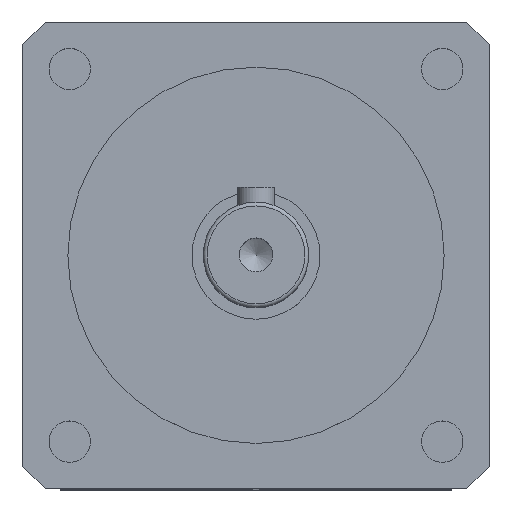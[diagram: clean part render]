
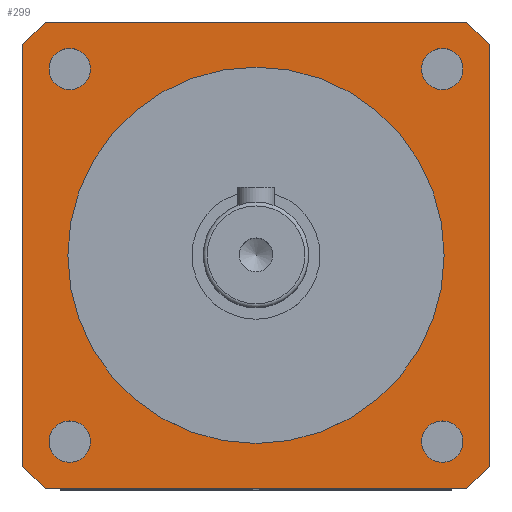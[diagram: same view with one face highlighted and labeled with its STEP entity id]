
A CAD part, top view. The second image highlights one B-rep face of the part: STEP entity #299.
In plain terms, the highlighted planar face has unit normal (0, 0, 1).
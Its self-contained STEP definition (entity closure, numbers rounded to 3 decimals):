
#176=LINE('',#1470,#240);
#179=LINE('',#1476,#243);
#182=LINE('',#1482,#246);
#184=LINE('',#1486,#248);
#187=LINE('',#1492,#251);
#188=LINE('',#1493,#252);
#189=LINE('',#1494,#253);
#190=LINE('',#1495,#254);
#240=VECTOR('',#1194,1.);
#243=VECTOR('',#1199,1.);
#246=VECTOR('',#1204,1.);
#248=VECTOR('',#1208,1.);
#251=VECTOR('',#1213,1.);
#252=VECTOR('',#1214,1.);
#253=VECTOR('',#1215,1.);
#254=VECTOR('',#1216,1.);
#299=ADVANCED_FACE('',(#407,#408,#409,#410,#411,#412),#356,.F.);
#356=PLANE('',#1041);
#407=FACE_BOUND('',#485,.T.);
#408=FACE_BOUND('',#486,.T.);
#409=FACE_BOUND('',#487,.T.);
#410=FACE_BOUND('',#488,.T.);
#411=FACE_BOUND('',#489,.T.);
#412=FACE_BOUND('',#490,.T.);
#485=EDGE_LOOP('',(#616));
#486=EDGE_LOOP('',(#617,#618,#619,#620,#621,#622,#623,#624));
#487=EDGE_LOOP('',(#625));
#488=EDGE_LOOP('',(#626));
#489=EDGE_LOOP('',(#627));
#490=EDGE_LOOP('',(#628));
#616=ORIENTED_EDGE('',*,*,#889,.T.);
#617=ORIENTED_EDGE('',*,*,#891,.F.);
#618=ORIENTED_EDGE('',*,*,#902,.T.);
#619=ORIENTED_EDGE('',*,*,#899,.F.);
#620=ORIENTED_EDGE('',*,*,#903,.T.);
#621=ORIENTED_EDGE('',*,*,#897,.F.);
#622=ORIENTED_EDGE('',*,*,#904,.T.);
#623=ORIENTED_EDGE('',*,*,#894,.F.);
#624=ORIENTED_EDGE('',*,*,#905,.T.);
#625=ORIENTED_EDGE('',*,*,#906,.F.);
#626=ORIENTED_EDGE('',*,*,#907,.F.);
#627=ORIENTED_EDGE('',*,*,#908,.F.);
#628=ORIENTED_EDGE('',*,*,#909,.F.);
#801=VERTEX_POINT('',#1465);
#802=VERTEX_POINT('',#1469);
#803=VERTEX_POINT('',#1471);
#804=VERTEX_POINT('',#1475);
#805=VERTEX_POINT('',#1477);
#806=VERTEX_POINT('',#1481);
#807=VERTEX_POINT('',#1483);
#808=VERTEX_POINT('',#1487);
#809=VERTEX_POINT('',#1488);
#810=VERTEX_POINT('',#1497);
#811=VERTEX_POINT('',#1499);
#812=VERTEX_POINT('',#1501);
#813=VERTEX_POINT('',#1503);
#889=EDGE_CURVE('',#801,#801,#976,.T.);
#891=EDGE_CURVE('',#802,#803,#176,.T.);
#894=EDGE_CURVE('',#804,#805,#179,.T.);
#897=EDGE_CURVE('',#806,#807,#182,.T.);
#899=EDGE_CURVE('',#808,#809,#184,.T.);
#902=EDGE_CURVE('',#802,#809,#187,.T.);
#903=EDGE_CURVE('',#808,#807,#188,.T.);
#904=EDGE_CURVE('',#806,#805,#189,.T.);
#905=EDGE_CURVE('',#804,#803,#190,.T.);
#906=EDGE_CURVE('',#810,#810,#977,.T.);
#907=EDGE_CURVE('',#811,#811,#978,.T.);
#908=EDGE_CURVE('',#812,#812,#979,.T.);
#909=EDGE_CURVE('',#813,#813,#980,.T.);
#976=CIRCLE('',#1030,25.);
#977=CIRCLE('',#1037,2.75);
#978=CIRCLE('',#1038,2.75);
#979=CIRCLE('',#1039,2.75);
#980=CIRCLE('',#1040,2.75);
#1030=AXIS2_PLACEMENT_3D('',#1464,#1187,#1188);
#1037=AXIS2_PLACEMENT_3D('',#1496,#1217,#1218);
#1038=AXIS2_PLACEMENT_3D('',#1498,#1219,#1220);
#1039=AXIS2_PLACEMENT_3D('',#1500,#1221,#1222);
#1040=AXIS2_PLACEMENT_3D('',#1502,#1223,#1224);
#1041=AXIS2_PLACEMENT_3D('',#1504,#1225,#1226);
#1187=DIRECTION('',(0.,0.,-1.));
#1188=DIRECTION('',(1.,0.,0.));
#1194=DIRECTION('',(0.,1.,0.));
#1199=DIRECTION('',(1.,0.,0.));
#1204=DIRECTION('',(0.,-1.,0.));
#1208=DIRECTION('',(-1.,0.,0.));
#1213=DIRECTION('',(0.707,-0.707,0.));
#1214=DIRECTION('',(0.707,0.707,0.));
#1215=DIRECTION('',(-0.707,0.707,0.));
#1216=DIRECTION('',(-0.707,-0.707,0.));
#1217=DIRECTION('',(0.,0.,1.));
#1218=DIRECTION('',(1.,0.,0.));
#1219=DIRECTION('',(0.,0.,1.));
#1220=DIRECTION('',(1.,0.,0.));
#1221=DIRECTION('',(0.,0.,1.));
#1222=DIRECTION('',(1.,0.,0.));
#1223=DIRECTION('',(0.,0.,1.));
#1224=DIRECTION('',(1.,0.,0.));
#1225=DIRECTION('',(0.,0.,-1.));
#1226=DIRECTION('',(-1.,0.,0.));
#1464=CARTESIAN_POINT('',(0.,0.,0.));
#1465=CARTESIAN_POINT('',(25.,0.,0.));
#1469=CARTESIAN_POINT('',(-31.,-28.,0.));
#1470=CARTESIAN_POINT('',(-31.,-31.,0.));
#1471=CARTESIAN_POINT('',(-31.,28.,0.));
#1475=CARTESIAN_POINT('',(-28.,31.,0.));
#1476=CARTESIAN_POINT('',(-31.,31.,0.));
#1477=CARTESIAN_POINT('',(28.,31.,0.));
#1481=CARTESIAN_POINT('',(31.,28.,0.));
#1482=CARTESIAN_POINT('',(31.,31.,0.));
#1483=CARTESIAN_POINT('',(31.,-28.,0.));
#1486=CARTESIAN_POINT('',(31.,-31.,0.));
#1487=CARTESIAN_POINT('',(28.,-31.,0.));
#1488=CARTESIAN_POINT('',(-28.,-31.,0.));
#1492=CARTESIAN_POINT('',(-31.,-28.,0.));
#1493=CARTESIAN_POINT('',(28.,-31.,0.));
#1494=CARTESIAN_POINT('',(31.,28.,0.));
#1495=CARTESIAN_POINT('',(-28.,31.,0.));
#1496=CARTESIAN_POINT('',(-24.749,24.749,0.));
#1497=CARTESIAN_POINT('',(-21.999,24.749,0.));
#1498=CARTESIAN_POINT('',(24.749,24.749,0.));
#1499=CARTESIAN_POINT('',(27.499,24.749,0.));
#1500=CARTESIAN_POINT('',(24.749,-24.749,0.));
#1501=CARTESIAN_POINT('',(27.499,-24.749,0.));
#1502=CARTESIAN_POINT('',(-24.749,-24.749,0.));
#1503=CARTESIAN_POINT('',(-21.999,-24.749,0.));
#1504=CARTESIAN_POINT('',(-31.,-31.,0.));
